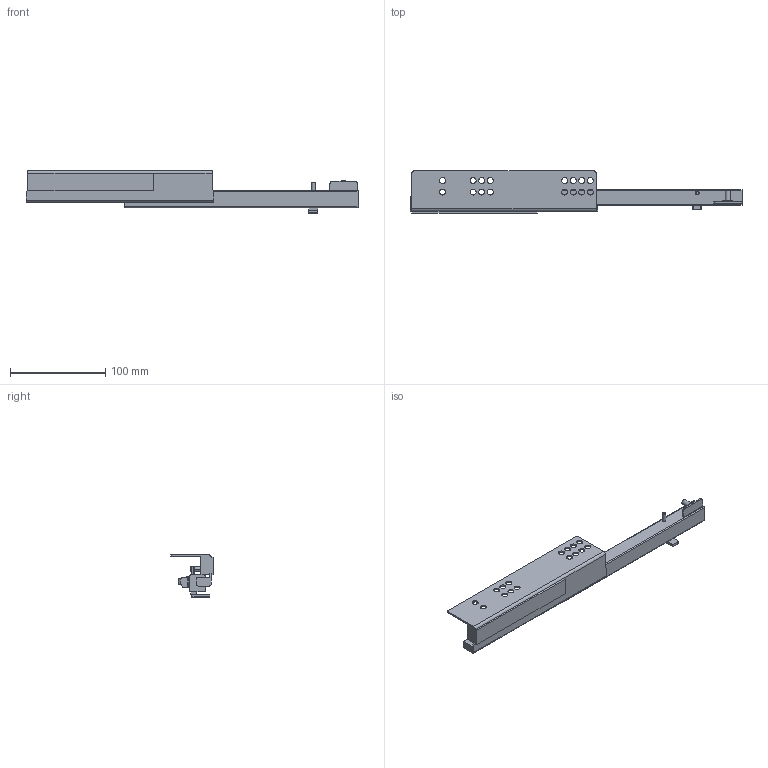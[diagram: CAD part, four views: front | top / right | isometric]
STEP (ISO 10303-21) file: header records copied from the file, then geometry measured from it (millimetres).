
FILE_DESCRIPTION (( 'STEP AP203' ), '1' );
FILE_NAME ('GG10250H-L-DTC3D-open.STEP', '2021-07-02T00:47:09', ( 'df' ), ( 'Microsoft' ), 'SwSTEP 2.0', 'SolidWorks 2018', '' );
FILE_SCHEMA (( 'CONFIG_CONTROL_DESIGN' ));
Length unit declared in the file: millimetre
Products named in the file (1): GG10250H-L-DTC3D-open
Bounding box: 348.1 x 44.1 x 44.73 mm (x, y, z)
Volume: 143619.3 mm3; surface area: 49694.3 mm2
Topology: 1 solids, 1 shells, 164 faces, 459 edges, 297 vertices
Faces by surface type: cylinder 80, plane 76, bspline 4, sphere 2, cone 2
Entity records: 5482 total; most frequent: CARTESIAN_POINT 1085, ORIENTED_EDGE 914, DIRECTION 899, EDGE_CURVE 457, AXIS2_PLACEMENT_3D 311, VERTEX_POINT 297, LINE 277, VECTOR 277
